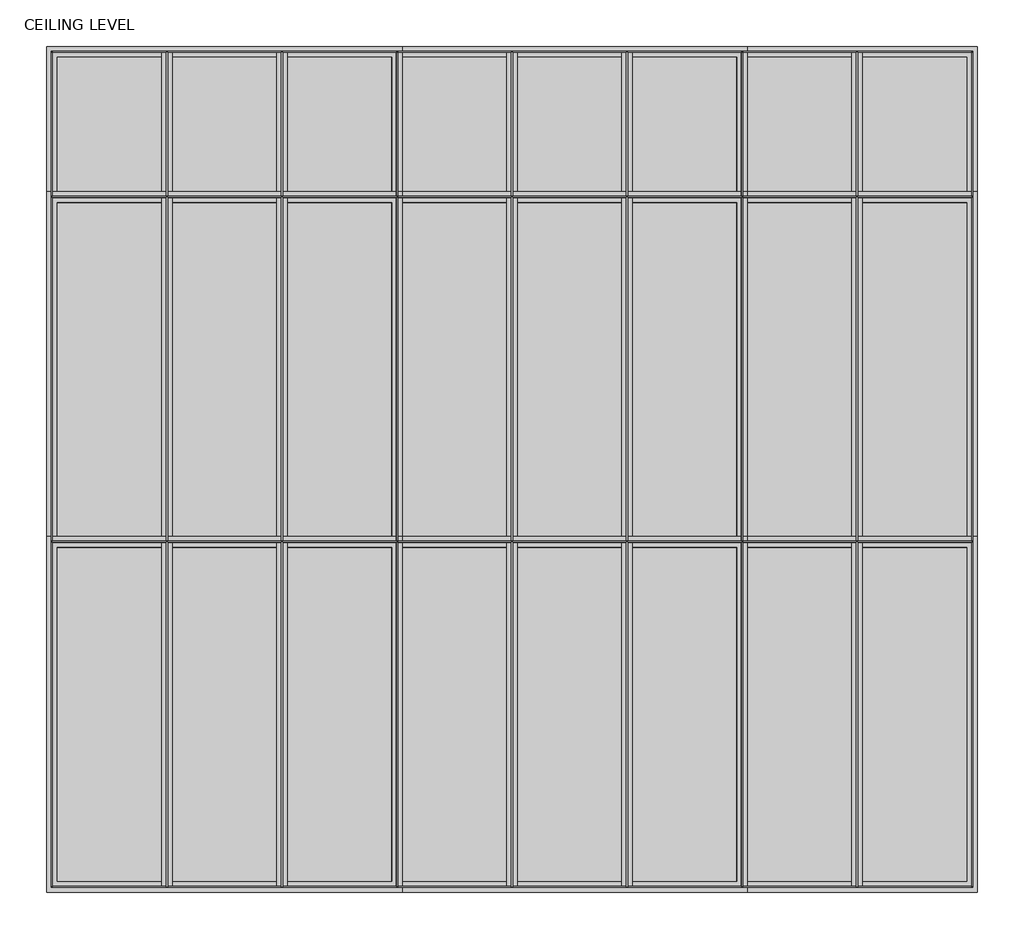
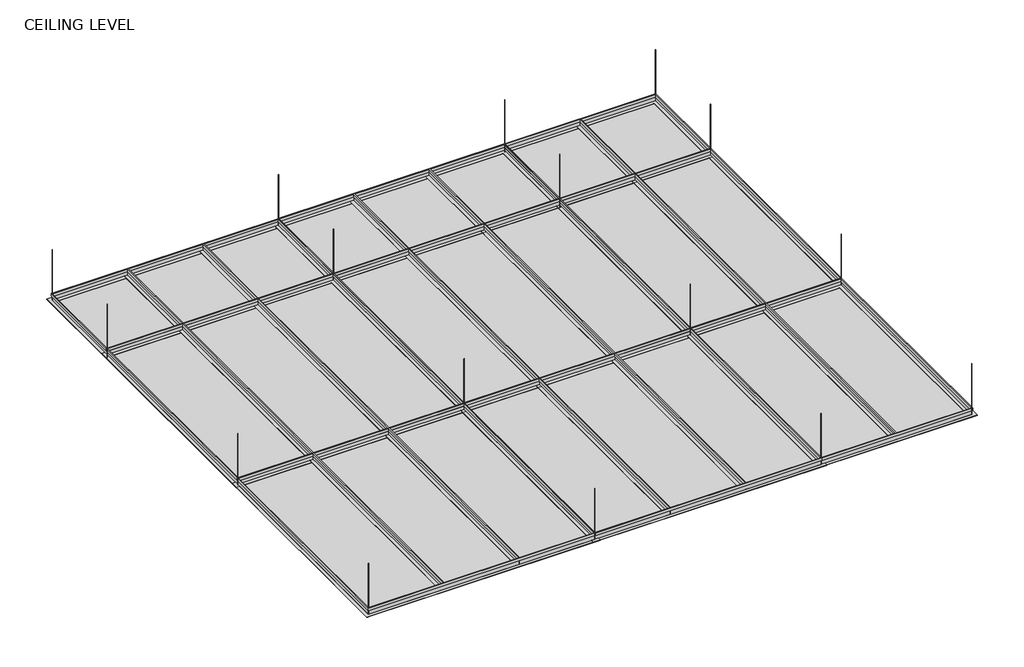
# One storey: 9 plates.
"""IFC4 building model written with IfcOpenShell, lengths in millimetres."""

import ifcopenshell
import ifcopenshell.guid

model = None  # the IFC model being written
_history = None  # IfcOwnerHistory: only IFC2X3 demands one
_inside = {}  # id of a spatial element -> (the spatial element, [elements in it])
_under = {}  # id of a project, library or spatial element -> (it, [spatial elements below it])
_declared = {}  # id of a project -> (the project, [libraries it declares])
_typed = {}  # id of a type object -> (the type object, [elements of that type])
_made_of = {}  # id of a material, layer set ... -> (it, [elements and type objects made of it])


def new_model(schema):
    """Start an empty IFC model of exactly this schema.

    Asked for "IFC4X3", IfcOpenShell would pick the latest addendum, in which some entities
    have other attributes; the version numbers below select the first issue.
    IFC2X3 requires an IfcOwnerHistory on every rooted entity: one is made here for all.
    """
    global model, _history
    if schema == "IFC4X3":
        model = ifcopenshell.file(schema_version=(4, 3, 0, 0))
    else:
        model = ifcopenshell.file(schema=schema)
    _inside.clear()
    _under.clear()
    _declared.clear()
    _typed.clear()
    _made_of.clear()
    _history = None
    if model.schema == "IFC2X3":
        org = make("IfcOrganization", Name="unknown")
        user = make(
            "IfcPersonAndOrganization",
            ThePerson=make("IfcPerson", FamilyName="unknown"),
            TheOrganization=org,
        )
        app = make(
            "IfcApplication",
            ApplicationDeveloper=org,
            Version="unknown",
            ApplicationFullName="unknown",
            ApplicationIdentifier="unknown",
        )
        _history = make(
            "IfcOwnerHistory",
            OwningUser=user,
            OwningApplication=app,
            ChangeAction="ADDED",
            CreationDate=0,
        )
    return model


def make(cls, **values):
    """One entity of the class cls with the attributes given. An attribute that is None is left unset."""
    return model.create_entity(
        cls, **{name: value for name, value in values.items() if value is not None}
    )


def rooted(cls, **values):
    """An entity with a GlobalId (a new one), such as an element, a storey or a relation."""
    return make(cls, GlobalId=ifcopenshell.guid.new(), OwnerHistory=_history, **values)


def si_unit(unit_type, name, prefix=None):
    """IfcSIUnit, for example si_unit("LENGTHUNIT", "METRE", prefix="MILLI")."""
    return make("IfcSIUnit", UnitType=unit_type, Prefix=prefix, Name=name)


def assignment(units):
    """IfcUnitAssignment: the units of a project."""
    return None if units is None else make("IfcUnitAssignment", Units=units)


def point(xyz):
    """IfcCartesianPoint."""
    return None if xyz is None else make("IfcCartesianPoint", Coordinates=xyz)


def direction(xyz):
    """IfcDirection."""
    return None if xyz is None else make("IfcDirection", DirectionRatios=xyz)


def frame(location, z_axis=None, x_axis=None):
    """IfcAxis2Placement3D, a coordinate frame: its origin and axes. An axis left out is left unset."""
    return make(
        "IfcAxis2Placement3D",
        Location=point(location),
        Axis=direction(z_axis),
        RefDirection=direction(x_axis),
    )


def frame_2d(location, x_axis=None):
    """IfcAxis2Placement2D, a coordinate frame in the plane: its origin and x axis."""
    return make(
        "IfcAxis2Placement2D", Location=point(location), RefDirection=direction(x_axis)
    )


def origin():
    """The frame at (0, 0, 0) with its axes left unset."""
    return frame((0.0, 0.0, 0.0))


def origin_with_axes():
    """The frame at (0, 0, 0) with the z axis (0, 0, 1) and the x axis (1, 0, 0) written out."""
    return frame((0.0, 0.0, 0.0), z_axis=(0.0, 0.0, 1.0), x_axis=(1.0, 0.0, 0.0))


def place(relative_to, where):
    """IfcLocalPlacement: puts the frame where relative to a parent placement (None: the world)."""
    return make(
        "IfcLocalPlacement", PlacementRelTo=relative_to, RelativePlacement=where
    )


def context(
    kind, dimensions, precision=None, world=None, true_north=None, identifier=None
):
    """IfcGeometricRepresentationContext, for example the 3D "Model" context."""
    return make(
        "IfcGeometricRepresentationContext",
        ContextIdentifier=identifier,
        ContextType=kind,
        CoordinateSpaceDimension=dimensions,
        Precision=precision,
        WorldCoordinateSystem=world,
        TrueNorth=true_north,
    )


def project(units=None, contexts=None):
    """IfcProject with its units and contexts."""
    return rooted(
        "IfcProject",
        Name="project",
        RepresentationContexts=contexts,
        UnitsInContext=assignment(units),
    )


def spatial(cls, under=None, at=None, **own):
    """A site, building, storey or space (cls), placed at a placement, below another one or the project."""
    s = rooted(cls, ObjectPlacement=at, **own)
    if under is not None:
        _under.setdefault(under.id(), (under, []))[1].append(s)
    return s


def polyline(points):
    """IfcPolyline through the points."""
    return make("IfcPolyline", Points=[point(p) for p in points])


def circle_curve(where, radius):
    """IfcCircle in the frame where."""
    return make("IfcCircle", Position=where, Radius=radius)


def trimmed(basis, trim1, trim2, sense, master):
    """IfcTrimmedCurve: the piece of a basis curve between two trims."""
    return make(
        "IfcTrimmedCurve",
        BasisCurve=basis,
        Trim1=trim1,
        Trim2=trim2,
        SenseAgreement=sense,
        MasterRepresentation=master,
    )


def segment(curve, same_sense, transition):
    """IfcCompositeCurveSegment."""
    return make(
        "IfcCompositeCurveSegment",
        Transition=transition,
        SameSense=same_sense,
        ParentCurve=curve,
    )


def composite_curve(segments, self_intersect=None):
    """IfcCompositeCurve: segments joined end to end."""
    return make("IfcCompositeCurve", Segments=segments, SelfIntersect=self_intersect)


def outline(outer, holes=None, kind="AREA"):
    """IfcArbitraryClosedProfileDef: a profile drawn as a closed curve; with holes, ...WithVoids."""
    if holes is None:
        return make("IfcArbitraryClosedProfileDef", ProfileType=kind, OuterCurve=outer)
    return make(
        "IfcArbitraryProfileDefWithVoids",
        ProfileType=kind,
        OuterCurve=outer,
        InnerCurves=holes,
    )


def extrude(swept, where, along, depth):
    """IfcExtrudedAreaSolid: the profile swept, set in the frame where, extruded along a direction by depth."""
    return make(
        "IfcExtrudedAreaSolid",
        SweptArea=swept,
        Position=where,
        ExtrudedDirection=direction(along),
        Depth=depth,
    )


def faces_of(points, faces, orient=None, outer=None):
    """IfcFace entities. A face is a list of loops; a loop is a list of indices into points, from 0.

    orient and outer hold one flag for each loop. By default every Orientation is true, the
    first loop of a face is its IfcFaceOuterBound and the others are IfcFaceBound.
    """
    made = []
    for i, loops in enumerate(faces):
        bounds = []
        for j, loop in enumerate(loops):
            is_outer = j == 0 if outer is None else outer[i][j]
            bounds.append(
                make(
                    "IfcFaceOuterBound" if is_outer else "IfcFaceBound",
                    Bound=make("IfcPolyLoop", Polygon=[points[k] for k in loop]),
                    Orientation=True if orient is None else orient[i][j],
                )
            )
        made.append(make("IfcFace", Bounds=bounds))
    return made


def faceted_brep(points, faces, orient=None, outer=None, voids=None):
    """IfcFacetedBrep: a solid bounded by flat faces; with voids (closed shells), ...WithVoids."""
    shared = [point(p) for p in points]
    hull = make("IfcClosedShell", CfsFaces=faces_of(shared, faces, orient, outer))
    if voids is None:
        return make("IfcFacetedBrep", Outer=hull)
    return make(
        "IfcFacetedBrepWithVoids",
        Outer=hull,
        Voids=[
            make(cls, CfsFaces=faces_of(shared, fs, o, b)) for cls, fs, o, b in voids
        ],
    )


def shape(context_of_items, identifier, shape_type, items):
    """IfcShapeRepresentation: the items that make up one representation, for example the "Body"."""
    return make(
        "IfcShapeRepresentation",
        ContextOfItems=context_of_items,
        RepresentationIdentifier=identifier,
        RepresentationType=shape_type,
        Items=items,
    )


def source(mapping_origin, context_of_items, identifier, shape_type, items):
    """IfcRepresentationMap: a shape defined once, which mapped items show again and again."""
    return make(
        "IfcRepresentationMap",
        MappingOrigin=mapping_origin,
        MappedRepresentation=shape(context_of_items, identifier, shape_type, items),
    )


def transform(
    local_origin,
    x_axis=None,
    y_axis=None,
    z_axis=None,
    scale=None,
    scale2=None,
    scale3=None,
    uniform=True,
):
    """IfcCartesianTransformationOperator3D, or its non-uniform kind. x_axis, y_axis, z_axis: its Axis1, 2, 3."""
    if uniform:
        return make(
            "IfcCartesianTransformationOperator3D",
            Axis1=direction(x_axis),
            Axis2=direction(y_axis),
            LocalOrigin=point(local_origin),
            Scale=scale,
            Axis3=direction(z_axis),
        )
    return make(
        "IfcCartesianTransformationOperator3DnonUniform",
        Axis1=direction(x_axis),
        Axis2=direction(y_axis),
        LocalOrigin=point(local_origin),
        Scale=scale,
        Axis3=direction(z_axis),
        Scale2=scale2,
        Scale3=scale3,
    )


def mapped(mapping_source, mapping_target):
    """IfcMappedItem: shows the shape of a source again, moved by a transform."""
    return make(
        "IfcMappedItem", MappingSource=mapping_source, MappingTarget=mapping_target
    )


def made_of(thing, what):
    """Note that an element or type object is made of a material, layer set ...; save() writes the relation."""
    if what is not None:
        _made_of.setdefault(what.id(), (what, []))[1].append(thing)
    return thing


def element(
    cls,
    number,
    at=None,
    inside=None,
    cuts=None,
    type_object=None,
    material=None,
    context=None,
    identifier="Body",
    shape_type=None,
    held_by="IfcProductDefinitionShape",
    body=None,
    shapes=None,
    **own,
):
    """One element of the class cls, such as IfcWall. Its Tag is "e" and its number.

    at: its placement. inside: the storey or other place that contains it. cuts: it is an
    opening in that element (IfcRelVoidsElement). A single representation is given by context,
    identifier, shape_type and body (its items); several are given by shapes. held_by: the class
    of the entity that holds the representations. save() writes the other relations.
    """
    e = rooted(cls, Tag="e%d" % number, ObjectPlacement=at, **own)
    if body is not None:
        shapes = [shape(context, identifier, shape_type, body)]
    if shapes is not None:
        e.Representation = make(held_by, Representations=shapes)
    if inside is not None:
        _inside.setdefault(inside.id(), (inside, []))[1].append(e)
    if cuts is not None:
        rooted(
            "IfcRelVoidsElement", RelatingBuildingElement=cuts, RelatedOpeningElement=e
        )
    if type_object is not None:
        _typed.setdefault(type_object.id(), (type_object, []))[1].append(e)
    return made_of(e, material)


def aggregate(whole, parts):
    """IfcRelAggregates: a whole, such as a stair, and the parts it consists of."""
    return rooted("IfcRelAggregates", RelatingObject=whole, RelatedObjects=parts)


def save(model, path):
    """Write the relations noted so far, then the file.

    IfcRelAggregates (storeys below a building ...), IfcRelContainedInSpatialStructure (elements
    in a storey), IfcRelDefinesByType, IfcRelAssociatesMaterial and IfcRelDeclares: one each for
    every whole, place, type object, material and project.
    """
    for whole, parts in _under.values():
        aggregate(whole, parts)
    for where, things in _inside.values():
        rooted(
            "IfcRelContainedInSpatialStructure",
            RelatedElements=things,
            RelatingStructure=where,
        )
    for kind, things in _typed.values():
        rooted("IfcRelDefinesByType", RelatedObjects=things, RelatingType=kind)
    for what, things in _made_of.values():
        rooted("IfcRelAssociatesMaterial", RelatedObjects=things, RelatingMaterial=what)
    for by, libraries in _declared.values():
        rooted("IfcRelDeclares", RelatingContext=by, RelatedDefinitions=libraries)
    model.write(path)


def plate_5478498b(model_context):
    return source(origin(), model_context, "Body", "SolidModel", [
        extrude(outline(composite_curve([segment(trimmed(circle_curve(frame_2d((1200.0, 600.0000002)), 0.5), [point((1200.0, 600.5000002))], [point((1200.0, 599.5000002))], False, "CARTESIAN"), True, "CONTINUOUS"), segment(trimmed(circle_curve(frame_2d((1200.0, 600.0000002)), 0.5), [point((1200.0, 599.5000002))], [point((1200.0, 600.5000002))], False, "CARTESIAN"), True, "CONTINUOUS")], self_intersect=False)), frame((0.0, -300.0, 0.0), z_axis=(0.0, 1.0, 0.0), x_axis=(0.0, 0.0, 1.0)), (0.0, 0.0, 1.0), 300.0),
        extrude(outline(composite_curve([segment(trimmed(circle_curve(frame_2d((1200.0, -600.0000002)), 0.5), [point((1200.0, -599.5000002))], [point((1200.0, -600.5000002))], False, "CARTESIAN"), True, "CONTINUOUS"), segment(trimmed(circle_curve(frame_2d((1200.0, -600.0000002)), 0.5), [point((1200.0, -600.5000002))], [point((1200.0, -599.5000002))], False, "CARTESIAN"), True, "CONTINUOUS")], self_intersect=False)), frame((0.0, -300.0, 0.0), z_axis=(0.0, 1.0, 0.0), x_axis=(0.0, 0.0, 1.0)), (0.0, 0.0, 1.0), 300.0),
        extrude(outline(composite_curve([segment(trimmed(circle_curve(frame_2d((0.0, 600.0000002)), 0.5), [point((0.0, 600.5000002))], [point((0.0, 599.5000002))], False, "CARTESIAN"), True, "CONTINUOUS"), segment(trimmed(circle_curve(frame_2d((0.0, 600.0000002)), 0.5), [point((0.0, 599.5000002))], [point((0.0, 600.5000002))], False, "CARTESIAN"), True, "CONTINUOUS")], self_intersect=False)), frame((0.0, -300.0, 0.0), z_axis=(0.0, 1.0, 0.0), x_axis=(0.0, 0.0, 1.0)), (0.0, 0.0, 1.0), 300.0),
        extrude(outline(composite_curve([segment(trimmed(circle_curve(frame_2d((0.0, -600.0000002)), 0.5), [point((0.0, -599.5000002))], [point((0.0, -600.5000002))], False, "CARTESIAN"), True, "CONTINUOUS"), segment(trimmed(circle_curve(frame_2d((0.0, -600.0000002)), 0.5), [point((0.0, -600.5000002))], [point((0.0, -599.5000002))], False, "CARTESIAN"), True, "CONTINUOUS")], self_intersect=False)), frame((0.0, -300.0, 0.0), z_axis=(0.0, 1.0, 0.0), x_axis=(0.0, 0.0, 1.0)), (0.0, 0.0, 1.0), 300.0),
        extrude(outline(polyline([(219.0000001, -15.0), (219.0000001, -16.0), (200.5000001, -16.0), (200.5000001, -37.0), (202.5000001, -37.0), (202.5000001, -51.0), (197.5000001, -51.0), (197.5000001, -37.0), (199.5000001, -37.0), (199.5000001, -16.0), (181.0000001, -16.0), (181.0000001, -15.0), (219.0000001, -15.0)])), origin_with_axes(), (0.0, 0.0, 1.0), 1200.0),
        extrude(outline(polyline([(-181.0000001, -15.0), (-181.0000001, -16.0), (-199.5000001, -16.0), (-199.5000001, -37.0), (-197.5000001, -37.0), (-197.5000001, -51.0), (-202.5000001, -51.0), (-202.5000001, -37.0), (-200.5000001, -37.0), (-200.5000001, -16.0), (-219.0000001, -16.0), (-219.0000001, -15.0), (-181.0000001, -15.0)])), origin_with_axes(), (0.0, 0.0, 1.0), 1200.0),
        faceted_brep([(581.0000002, -16.0, 1181.0), (581.0000002, -15.0, 1181.0), (581.0000002, -15.0, 19.0), (581.0000002, -16.0, 19.0), (599.5000002, -37.0, 1199.5), (599.5000002, -16.0, 1199.5), (599.5000002, -16.0, 0.5), (599.5000002, -37.0, 0.5), (597.5000002, -51.0, 1197.5), (597.5000002, -37.0, 1197.5), (597.5000002, -37.0, 2.5), (597.5000002, -51.0, 2.5), (602.5000002, -37.0, 1202.5), (602.5000002, -51.0, 1202.5), (602.5000002, -51.0, -2.5), (602.5000002, -37.0, -2.5), (600.5000002, -16.0, 1200.5), (600.5000002, -37.0, 1200.5), (600.5000002, -37.0, -0.5), (600.5000002, -16.0, -0.5), (619.0000002, -15.0, 1219.0), (619.0000002, -16.0, 1219.0), (619.0000002, -16.0, -19.0), (619.0000002, -15.0, -19.0), (-581.0000002, -15.0, 19.0), (-581.0000002, -16.0, 19.0), (-599.5000002, -16.0, 0.5), (-599.5000002, -37.0, 0.5), (-597.5000002, -37.0, 2.5), (-597.5000002, -51.0, 2.5), (-602.5000002, -51.0, -2.5), (-602.5000002, -37.0, -2.5), (-600.5000002, -37.0, -0.5), (-600.5000002, -16.0, -0.5), (-619.0000002, -16.0, -19.0), (-619.0000002, -15.0, -19.0), (-581.0000002, -15.0, 1181.0), (-581.0000002, -16.0, 1181.0), (-599.5000002, -16.0, 1199.5), (-599.5000002, -37.0, 1199.5), (-597.5000002, -37.0, 1197.5), (-597.5000002, -51.0, 1197.5), (-602.5000002, -51.0, 1202.5), (-602.5000002, -37.0, 1202.5), (-600.5000002, -37.0, 1200.5), (-600.5000002, -16.0, 1200.5), (-619.0000002, -16.0, 1219.0), (-619.0000002, -15.0, 1219.0)], [[[0, 1, 2, 3]], [[4, 5, 6, 7]], [[8, 9, 10, 11]], [[12, 13, 14, 15]], [[16, 17, 18, 19]], [[20, 21, 22, 23]], [[3, 2, 24, 25]], [[7, 6, 26, 27]], [[11, 10, 28, 29]], [[15, 14, 30, 31]], [[19, 18, 32, 33]], [[23, 22, 34, 35]], [[25, 24, 36, 37]], [[27, 26, 38, 39]], [[29, 28, 40, 41]], [[31, 30, 42, 43]], [[33, 32, 44, 45]], [[35, 34, 46, 47]], [[23, 35, 47, 20], [1, 36, 24, 2]], [[37, 36, 1, 0]], [[5, 38, 26, 6], [3, 25, 37, 0]], [[39, 38, 5, 4]], [[7, 27, 39, 4], [9, 40, 28, 10]], [[41, 40, 9, 8]], [[13, 42, 30, 14], [11, 29, 41, 8]], [[43, 42, 13, 12]], [[15, 31, 43, 12], [17, 44, 32, 18]], [[45, 44, 17, 16]], [[21, 46, 34, 22], [19, 33, 45, 16]], [[47, 46, 21, 20]]]),
        extrude(outline(polyline([(600.0000002, -15.0), (-600.0000002, -15.0), (-600.0000002, 0.0), (600.0000002, 0.0), (600.0000002, -15.0)])), origin_with_axes(), (0.0, 0.0, 1.0), 1200.0),
    ])


def plate_05c5f138(model_context):
    return source(origin(), model_context, "Body", "SolidModel", [
        extrude(outline(composite_curve([segment(trimmed(circle_curve(frame_2d((505.0, 600.0000002)), 0.5), [point((505.0, 600.5000002))], [point((505.0, 599.5000002))], False, "CARTESIAN"), True, "CONTINUOUS"), segment(trimmed(circle_curve(frame_2d((505.0, 600.0000002)), 0.5), [point((505.0, 599.5000002))], [point((505.0, 600.5000002))], False, "CARTESIAN"), True, "CONTINUOUS")], self_intersect=False)), frame((0.0, -300.0, 0.0), z_axis=(0.0, 1.0, 0.0), x_axis=(0.0, 0.0, 1.0)), (0.0, 0.0, 1.0), 300.0),
        extrude(outline(composite_curve([segment(trimmed(circle_curve(frame_2d((505.0, -600.0000002)), 0.5), [point((505.0, -599.5000002))], [point((505.0, -600.5000002))], False, "CARTESIAN"), True, "CONTINUOUS"), segment(trimmed(circle_curve(frame_2d((505.0, -600.0000002)), 0.5), [point((505.0, -600.5000002))], [point((505.0, -599.5000002))], False, "CARTESIAN"), True, "CONTINUOUS")], self_intersect=False)), frame((0.0, -300.0, 0.0), z_axis=(0.0, 1.0, 0.0), x_axis=(0.0, 0.0, 1.0)), (0.0, 0.0, 1.0), 300.0),
        extrude(outline(composite_curve([segment(trimmed(circle_curve(frame_2d((0.0, 600.0000002)), 0.5), [point((0.0, 600.5000002))], [point((0.0, 599.5000002))], False, "CARTESIAN"), True, "CONTINUOUS"), segment(trimmed(circle_curve(frame_2d((0.0, 600.0000002)), 0.5), [point((0.0, 599.5000002))], [point((0.0, 600.5000002))], False, "CARTESIAN"), True, "CONTINUOUS")], self_intersect=False)), frame((0.0, -300.0, 0.0), z_axis=(0.0, 1.0, 0.0), x_axis=(0.0, 0.0, 1.0)), (0.0, 0.0, 1.0), 300.0),
        extrude(outline(composite_curve([segment(trimmed(circle_curve(frame_2d((0.0, -600.0000002)), 0.5), [point((0.0, -599.5000002))], [point((0.0, -600.5000002))], False, "CARTESIAN"), True, "CONTINUOUS"), segment(trimmed(circle_curve(frame_2d((0.0, -600.0000002)), 0.5), [point((0.0, -600.5000002))], [point((0.0, -599.5000002))], False, "CARTESIAN"), True, "CONTINUOUS")], self_intersect=False)), frame((0.0, -300.0, 0.0), z_axis=(0.0, 1.0, 0.0), x_axis=(0.0, 0.0, 1.0)), (0.0, 0.0, 1.0), 300.0),
        extrude(outline(polyline([(219.0000001, -15.0), (219.0000001, -16.0), (200.5000001, -16.0), (200.5000001, -37.0), (202.5000001, -37.0), (202.5000001, -51.0), (197.5000001, -51.0), (197.5000001, -37.0), (199.5000001, -37.0), (199.5000001, -16.0), (181.0000001, -16.0), (181.0000001, -15.0), (219.0000001, -15.0)])), origin_with_axes(), (0.0, 0.0, 1.0), 505.0),
        extrude(outline(polyline([(-181.0000001, -15.0), (-181.0000001, -16.0), (-199.5000001, -16.0), (-199.5000001, -37.0), (-197.5000001, -37.0), (-197.5000001, -51.0), (-202.5000001, -51.0), (-202.5000001, -37.0), (-200.5000001, -37.0), (-200.5000001, -16.0), (-219.0000001, -16.0), (-219.0000001, -15.0), (-181.0000001, -15.0)])), origin_with_axes(), (0.0, 0.0, 1.0), 505.0),
        faceted_brep([(581.0000002, -16.0, 486.0), (581.0000002, -15.0, 486.0), (581.0000002, -15.0, 19.0), (581.0000002, -16.0, 19.0), (599.5000002, -37.0, 504.5), (599.5000002, -16.0, 504.5), (599.5000002, -16.0, 0.5), (599.5000002, -37.0, 0.5), (597.5000002, -51.0, 502.5), (597.5000002, -37.0, 502.5), (597.5000002, -37.0, 2.5), (597.5000002, -51.0, 2.5), (602.5000002, -37.0, 507.5), (602.5000002, -51.0, 507.5), (602.5000002, -51.0, -2.5), (602.5000002, -37.0, -2.5), (600.5000002, -16.0, 505.5), (600.5000002, -37.0, 505.5), (600.5000002, -37.0, -0.5), (600.5000002, -16.0, -0.5), (619.0000002, -15.0, 524.0), (619.0000002, -16.0, 524.0), (619.0000002, -16.0, -19.0), (619.0000002, -15.0, -19.0), (-581.0000002, -15.0, 19.0), (-581.0000002, -16.0, 19.0), (-599.5000002, -16.0, 0.5), (-599.5000002, -37.0, 0.5), (-597.5000002, -37.0, 2.5), (-597.5000002, -51.0, 2.5), (-602.5000002, -51.0, -2.5), (-602.5000002, -37.0, -2.5), (-600.5000002, -37.0, -0.5), (-600.5000002, -16.0, -0.5), (-619.0000002, -16.0, -19.0), (-619.0000002, -15.0, -19.0), (-581.0000002, -15.0, 486.0), (-581.0000002, -16.0, 486.0), (-599.5000002, -16.0, 504.5), (-599.5000002, -37.0, 504.5), (-597.5000002, -37.0, 502.5), (-597.5000002, -51.0, 502.5), (-602.5000002, -51.0, 507.5), (-602.5000002, -37.0, 507.5), (-600.5000002, -37.0, 505.5), (-600.5000002, -16.0, 505.5), (-619.0000002, -16.0, 524.0), (-619.0000002, -15.0, 524.0)], [[[0, 1, 2, 3]], [[4, 5, 6, 7]], [[8, 9, 10, 11]], [[12, 13, 14, 15]], [[16, 17, 18, 19]], [[20, 21, 22, 23]], [[3, 2, 24, 25]], [[7, 6, 26, 27]], [[11, 10, 28, 29]], [[15, 14, 30, 31]], [[19, 18, 32, 33]], [[23, 22, 34, 35]], [[25, 24, 36, 37]], [[27, 26, 38, 39]], [[29, 28, 40, 41]], [[31, 30, 42, 43]], [[33, 32, 44, 45]], [[35, 34, 46, 47]], [[23, 35, 47, 20], [1, 36, 24, 2]], [[37, 36, 1, 0]], [[5, 38, 26, 6], [3, 25, 37, 0]], [[39, 38, 5, 4]], [[7, 27, 39, 4], [9, 40, 28, 10]], [[41, 40, 9, 8]], [[13, 42, 30, 14], [11, 29, 41, 8]], [[43, 42, 13, 12]], [[15, 31, 43, 12], [17, 44, 32, 18]], [[45, 44, 17, 16]], [[21, 46, 34, 22], [19, 33, 45, 16]], [[47, 46, 21, 20]]]),
        extrude(outline(polyline([(600.0000002, -15.0), (-600.0000002, -15.0), (-600.0000002, 0.0), (600.0000002, 0.0), (600.0000002, -15.0)])), origin_with_axes(), (0.0, 0.0, 1.0), 505.0),
    ])


def flush_ceiling_panel_with_tee_and_cable_ties_ceiling_panel_486cffb7(model_context):
    return source(origin(), model_context, "Body", "SolidModel", [
        extrude(outline(composite_curve([segment(trimmed(circle_curve(frame_2d((1200.0, 399.9999998)), 0.5), [point((1200.0, 400.4999998))], [point((1200.0, 399.4999998))], False, "CARTESIAN"), True, "CONTINUOUS"), segment(trimmed(circle_curve(frame_2d((1200.0, 399.9999998)), 0.5), [point((1200.0, 399.4999998))], [point((1200.0, 400.4999998))], False, "CARTESIAN"), True, "CONTINUOUS")], self_intersect=False)), frame((0.0, -300.0, 0.0), z_axis=(0.0, 1.0, 0.0), x_axis=(0.0, 0.0, 1.0)), (0.0, 0.0, 1.0), 300.0),
        extrude(outline(composite_curve([segment(trimmed(circle_curve(frame_2d((1200.0, -399.9999998)), 0.5), [point((1200.0, -399.4999998))], [point((1200.0, -400.4999998))], False, "CARTESIAN"), True, "CONTINUOUS"), segment(trimmed(circle_curve(frame_2d((1200.0, -399.9999998)), 0.5), [point((1200.0, -400.4999998))], [point((1200.0, -399.4999998))], False, "CARTESIAN"), True, "CONTINUOUS")], self_intersect=False)), frame((0.0, -300.0, 0.0), z_axis=(0.0, 1.0, 0.0), x_axis=(0.0, 0.0, 1.0)), (0.0, 0.0, 1.0), 300.0),
        extrude(outline(composite_curve([segment(trimmed(circle_curve(frame_2d((0.0, 399.9999998)), 0.5), [point((0.0, 400.4999998))], [point((0.0, 399.4999998))], False, "CARTESIAN"), True, "CONTINUOUS"), segment(trimmed(circle_curve(frame_2d((0.0, 399.9999998)), 0.5), [point((0.0, 399.4999998))], [point((0.0, 400.4999998))], False, "CARTESIAN"), True, "CONTINUOUS")], self_intersect=False)), frame((0.0, -300.0, 0.0), z_axis=(0.0, 1.0, 0.0), x_axis=(0.0, 0.0, 1.0)), (0.0, 0.0, 1.0), 300.0),
        extrude(outline(composite_curve([segment(trimmed(circle_curve(frame_2d((0.0, -399.9999998)), 0.5), [point((0.0, -399.4999998))], [point((0.0, -400.4999998))], False, "CARTESIAN"), True, "CONTINUOUS"), segment(trimmed(circle_curve(frame_2d((0.0, -399.9999998)), 0.5), [point((0.0, -400.4999998))], [point((0.0, -399.4999998))], False, "CARTESIAN"), True, "CONTINUOUS")], self_intersect=False)), frame((0.0, -300.0, 0.0), z_axis=(0.0, 1.0, 0.0), x_axis=(0.0, 0.0, 1.0)), (0.0, 0.0, 1.0), 300.0),
        extrude(outline(polyline([(19.0, -15.0), (19.0, -16.0), (0.5, -16.0), (0.5, -37.0), (2.5, -37.0), (2.5, -51.0), (-2.5, -51.0), (-2.5, -37.0), (-0.5, -37.0), (-0.5, -16.0), (-19.0, -16.0), (-19.0, -15.0), (19.0, -15.0)])), origin_with_axes(), (0.0, 0.0, 1.0), 1200.0),
        faceted_brep([(380.9999998, -16.0, 1181.0), (380.9999998, -15.0, 1181.0), (380.9999998, -15.0, 19.0), (380.9999998, -16.0, 19.0), (399.4999998, -37.0, 1199.5), (399.4999998, -16.0, 1199.5), (399.4999998, -16.0, 0.5), (399.4999998, -37.0, 0.5), (397.4999998, -51.0, 1197.5), (397.4999998, -37.0, 1197.5), (397.4999998, -37.0, 2.5), (397.4999998, -51.0, 2.5), (402.4999998, -37.0, 1202.5), (402.4999998, -51.0, 1202.5), (402.4999998, -51.0, -2.5), (402.4999998, -37.0, -2.5), (400.4999998, -16.0, 1200.5), (400.4999998, -37.0, 1200.5), (400.4999998, -37.0, -0.5), (400.4999998, -16.0, -0.5), (418.9999998, -15.0, 1219.0), (418.9999998, -16.0, 1219.0), (418.9999998, -16.0, -19.0), (418.9999998, -15.0, -19.0), (-380.9999998, -15.0, 19.0), (-380.9999998, -16.0, 19.0), (-399.4999998, -16.0, 0.5), (-399.4999998, -37.0, 0.5), (-397.4999998, -37.0, 2.5), (-397.4999998, -51.0, 2.5), (-402.4999998, -51.0, -2.5), (-402.4999998, -37.0, -2.5), (-400.4999998, -37.0, -0.5), (-400.4999998, -16.0, -0.5), (-418.9999998, -16.0, -19.0), (-418.9999998, -15.0, -19.0), (-380.9999998, -15.0, 1181.0), (-380.9999998, -16.0, 1181.0), (-399.4999998, -16.0, 1199.5), (-399.4999998, -37.0, 1199.5), (-397.4999998, -37.0, 1197.5), (-397.4999998, -51.0, 1197.5), (-402.4999998, -51.0, 1202.5), (-402.4999998, -37.0, 1202.5), (-400.4999998, -37.0, 1200.5), (-400.4999998, -16.0, 1200.5), (-418.9999998, -16.0, 1219.0), (-418.9999998, -15.0, 1219.0)], [[[0, 1, 2, 3]], [[4, 5, 6, 7]], [[8, 9, 10, 11]], [[12, 13, 14, 15]], [[16, 17, 18, 19]], [[20, 21, 22, 23]], [[3, 2, 24, 25]], [[7, 6, 26, 27]], [[11, 10, 28, 29]], [[15, 14, 30, 31]], [[19, 18, 32, 33]], [[23, 22, 34, 35]], [[25, 24, 36, 37]], [[27, 26, 38, 39]], [[29, 28, 40, 41]], [[31, 30, 42, 43]], [[33, 32, 44, 45]], [[35, 34, 46, 47]], [[23, 35, 47, 20], [1, 36, 24, 2]], [[37, 36, 1, 0]], [[5, 38, 26, 6], [3, 25, 37, 0]], [[39, 38, 5, 4]], [[7, 27, 39, 4], [9, 40, 28, 10]], [[41, 40, 9, 8]], [[13, 42, 30, 14], [11, 29, 41, 8]], [[43, 42, 13, 12]], [[15, 31, 43, 12], [17, 44, 32, 18]], [[45, 44, 17, 16]], [[21, 46, 34, 22], [19, 33, 45, 16]], [[47, 46, 21, 20]]]),
        extrude(outline(polyline([(399.9999998, -15.0), (-399.9999998, -15.0), (-399.9999998, 0.0), (399.9999998, 0.0), (399.9999998, -15.0)])), origin_with_axes(), (0.0, 0.0, 1.0), 1200.0),
    ])


def flush_ceiling_panel_with_tee_and_cable_ties_ceiling_panel_26e405d2(model_context):
    return source(origin(), model_context, "Body", "SolidModel", [
        extrude(outline(composite_curve([segment(trimmed(circle_curve(frame_2d((505.0, 399.9999998)), 0.5), [point((505.0, 400.4999998))], [point((505.0, 399.4999998))], False, "CARTESIAN"), True, "CONTINUOUS"), segment(trimmed(circle_curve(frame_2d((505.0, 399.9999998)), 0.5), [point((505.0, 399.4999998))], [point((505.0, 400.4999998))], False, "CARTESIAN"), True, "CONTINUOUS")], self_intersect=False)), frame((0.0, -300.0, 0.0), z_axis=(0.0, 1.0, 0.0), x_axis=(0.0, 0.0, 1.0)), (0.0, 0.0, 1.0), 300.0),
        extrude(outline(composite_curve([segment(trimmed(circle_curve(frame_2d((505.0, -399.9999998)), 0.5), [point((505.0, -399.4999998))], [point((505.0, -400.4999998))], False, "CARTESIAN"), True, "CONTINUOUS"), segment(trimmed(circle_curve(frame_2d((505.0, -399.9999998)), 0.5), [point((505.0, -400.4999998))], [point((505.0, -399.4999998))], False, "CARTESIAN"), True, "CONTINUOUS")], self_intersect=False)), frame((0.0, -300.0, 0.0), z_axis=(0.0, 1.0, 0.0), x_axis=(0.0, 0.0, 1.0)), (0.0, 0.0, 1.0), 300.0),
        extrude(outline(composite_curve([segment(trimmed(circle_curve(frame_2d((0.0, 399.9999998)), 0.5), [point((0.0, 400.4999998))], [point((0.0, 399.4999998))], False, "CARTESIAN"), True, "CONTINUOUS"), segment(trimmed(circle_curve(frame_2d((0.0, 399.9999998)), 0.5), [point((0.0, 399.4999998))], [point((0.0, 400.4999998))], False, "CARTESIAN"), True, "CONTINUOUS")], self_intersect=False)), frame((0.0, -300.0, 0.0), z_axis=(0.0, 1.0, 0.0), x_axis=(0.0, 0.0, 1.0)), (0.0, 0.0, 1.0), 300.0),
        extrude(outline(composite_curve([segment(trimmed(circle_curve(frame_2d((0.0, -399.9999998)), 0.5), [point((0.0, -399.4999998))], [point((0.0, -400.4999998))], False, "CARTESIAN"), True, "CONTINUOUS"), segment(trimmed(circle_curve(frame_2d((0.0, -399.9999998)), 0.5), [point((0.0, -400.4999998))], [point((0.0, -399.4999998))], False, "CARTESIAN"), True, "CONTINUOUS")], self_intersect=False)), frame((0.0, -300.0, 0.0), z_axis=(0.0, 1.0, 0.0), x_axis=(0.0, 0.0, 1.0)), (0.0, 0.0, 1.0), 300.0),
        extrude(outline(polyline([(19.0, -15.0), (19.0, -16.0), (0.5, -16.0), (0.5, -37.0), (2.5, -37.0), (2.5, -51.0), (-2.5, -51.0), (-2.5, -37.0), (-0.5, -37.0), (-0.5, -16.0), (-19.0, -16.0), (-19.0, -15.0), (19.0, -15.0)])), origin_with_axes(), (0.0, 0.0, 1.0), 505.0),
        faceted_brep([(380.9999998, -16.0, 486.0), (380.9999998, -15.0, 486.0), (380.9999998, -15.0, 19.0), (380.9999998, -16.0, 19.0), (399.4999998, -37.0, 504.5), (399.4999998, -16.0, 504.5), (399.4999998, -16.0, 0.5), (399.4999998, -37.0, 0.5), (397.4999998, -51.0, 502.5), (397.4999998, -37.0, 502.5), (397.4999998, -37.0, 2.5), (397.4999998, -51.0, 2.5), (402.4999998, -37.0, 507.5), (402.4999998, -51.0, 507.5), (402.4999998, -51.0, -2.5), (402.4999998, -37.0, -2.5), (400.4999998, -16.0, 505.5), (400.4999998, -37.0, 505.5), (400.4999998, -37.0, -0.5), (400.4999998, -16.0, -0.5), (418.9999998, -15.0, 524.0), (418.9999998, -16.0, 524.0), (418.9999998, -16.0, -19.0), (418.9999998, -15.0, -19.0), (-380.9999998, -15.0, 19.0), (-380.9999998, -16.0, 19.0), (-399.4999998, -16.0, 0.5), (-399.4999998, -37.0, 0.5), (-397.4999998, -37.0, 2.5), (-397.4999998, -51.0, 2.5), (-402.4999998, -51.0, -2.5), (-402.4999998, -37.0, -2.5), (-400.4999998, -37.0, -0.5), (-400.4999998, -16.0, -0.5), (-418.9999998, -16.0, -19.0), (-418.9999998, -15.0, -19.0), (-380.9999998, -15.0, 486.0), (-380.9999998, -16.0, 486.0), (-399.4999998, -16.0, 504.5), (-399.4999998, -37.0, 504.5), (-397.4999998, -37.0, 502.5), (-397.4999998, -51.0, 502.5), (-402.4999998, -51.0, 507.5), (-402.4999998, -37.0, 507.5), (-400.4999998, -37.0, 505.5), (-400.4999998, -16.0, 505.5), (-418.9999998, -16.0, 524.0), (-418.9999998, -15.0, 524.0)], [[[0, 1, 2, 3]], [[4, 5, 6, 7]], [[8, 9, 10, 11]], [[12, 13, 14, 15]], [[16, 17, 18, 19]], [[20, 21, 22, 23]], [[3, 2, 24, 25]], [[7, 6, 26, 27]], [[11, 10, 28, 29]], [[15, 14, 30, 31]], [[19, 18, 32, 33]], [[23, 22, 34, 35]], [[25, 24, 36, 37]], [[27, 26, 38, 39]], [[29, 28, 40, 41]], [[31, 30, 42, 43]], [[33, 32, 44, 45]], [[35, 34, 46, 47]], [[23, 35, 47, 20], [1, 36, 24, 2]], [[37, 36, 1, 0]], [[5, 38, 26, 6], [3, 25, 37, 0]], [[39, 38, 5, 4]], [[7, 27, 39, 4], [9, 40, 28, 10]], [[41, 40, 9, 8]], [[13, 42, 30, 14], [11, 29, 41, 8]], [[43, 42, 13, 12]], [[15, 31, 43, 12], [17, 44, 32, 18]], [[45, 44, 17, 16]], [[21, 46, 34, 22], [19, 33, 45, 16]], [[47, 46, 21, 20]]]),
        extrude(outline(polyline([(399.9999998, -15.0), (-399.9999998, -15.0), (-399.9999998, 0.0), (399.9999998, 0.0), (399.9999998, -15.0)])), origin_with_axes(), (0.0, 0.0, 1.0), 505.0),
    ])


model = new_model("IFC4")

# Units and contexts
model_context = context("Model", 3, world=origin())
ifc_project = project(units=[si_unit("LENGTHUNIT", "METRE", prefix="MILLI")], contexts=[model_context])

# Site, building, storey
site = spatial("IfcSite", under=ifc_project)
building = spatial("IfcBuilding", under=site)
storey = spatial("IfcBuildingStorey", under=building, Name="CEILING LEVEL", Elevation=3000.0)

# Plates
placement = place(None, origin())
plate_shape = plate_5478498b(model_context)
element("IfcPlate", 1, ObjectType="Flush Ceiling Panel with Tee and Cable Ties (3 Segments) : Ceiling Panel (Vinyl) with Tee and Cable Ties Edge", at=placement, inside=storey, context=model_context, shape_type="MappedRepresentation", body=[
    mapped(plate_shape, transform((-460.7221627, -41755.6917524, 3000.0), x_axis=(1.0, 0.0, 0.0), y_axis=(0.0, 0.0, -1.0), z_axis=(0.0, 1.0, 0.0))),
])
element("IfcPlate", 2, ObjectType="Flush Ceiling Panel with Tee and Cable Ties (3 Segments) : Ceiling Panel (Vinyl) with Tee and Cable Ties Edge", at=placement, inside=storey, context=model_context, shape_type="MappedRepresentation", body=[
    mapped(plate_shape, transform((739.2778375, -41755.6917524, 3000.0), x_axis=(1.0, 0.0, 0.0), y_axis=(0.0, 0.0, -1.0), z_axis=(0.0, 1.0, 0.0))),
])
element("IfcPlate", 3, ObjectType="Flush Ceiling Panel with Tee and Cable Ties (3 Segments) : Ceiling Panel (Vinyl) with Tee and Cable Ties Edge", at=placement, inside=storey, context=model_context, shape_type="MappedRepresentation", body=[
    mapped(plate_shape, transform((-460.7221627, -40555.6917524, 3000.0), x_axis=(1.0, 0.0, 0.0), y_axis=(0.0, 0.0, -1.0), z_axis=(0.0, 1.0, 0.0))),
])
element("IfcPlate", 4, ObjectType="Flush Ceiling Panel with Tee and Cable Ties (3 Segments) : Ceiling Panel (Vinyl) with Tee and Cable Ties Edge", at=placement, inside=storey, context=model_context, shape_type="MappedRepresentation", body=[
    mapped(plate_shape, transform((739.2778375, -40555.6917524, 3000.0), x_axis=(1.0, 0.0, 0.0), y_axis=(0.0, 0.0, -1.0), z_axis=(0.0, 1.0, 0.0))),
])
plate_2_shape = plate_05c5f138(model_context)
element("IfcPlate", 5, ObjectType="Flush Ceiling Panel with Tee and Cable Ties (3 Segments) : Ceiling Panel (Vinyl) with Tee and Cable Ties Edge", at=placement, inside=storey, context=model_context, shape_type="MappedRepresentation", body=[
    mapped(plate_2_shape, transform((-460.7221627, -39355.6917524, 3000.0), x_axis=(1.0, 0.0, 0.0), y_axis=(0.0, 0.0, -1.0), z_axis=(0.0, 1.0, 0.0))),
])
element("IfcPlate", 6, ObjectType="Flush Ceiling Panel with Tee and Cable Ties (3 Segments) : Ceiling Panel (Vinyl) with Tee and Cable Ties Edge", at=placement, inside=storey, context=model_context, shape_type="MappedRepresentation", body=[
    mapped(plate_2_shape, transform((739.2778375, -39355.6917524, 3000.0), x_axis=(1.0, 0.0, 0.0), y_axis=(0.0, 0.0, -1.0), z_axis=(0.0, 1.0, 0.0))),
])
flush_ceiling_panel_with_tee_and_cable_ties_ceiling_panel_shape = flush_ceiling_panel_with_tee_and_cable_ties_ceiling_panel_486cffb7(model_context)
element("IfcPlate", 7, ObjectType="Flush Ceiling Panel with Tee and Cable Ties : Ceiling Panel with Tee and Cable Ties Edge", at=placement, inside=storey, context=model_context, shape_type="MappedRepresentation", body=[
    mapped(flush_ceiling_panel_with_tee_and_cable_ties_ceiling_panel_shape, transform((1739.2778373, -41755.6917524, 3000.0), x_axis=(1.0, 0.0, 0.0), y_axis=(0.0, 0.0, -1.0), z_axis=(0.0, 1.0, 0.0))),
])
element("IfcPlate", 8, ObjectType="Flush Ceiling Panel with Tee and Cable Ties : Ceiling Panel with Tee and Cable Ties Edge", at=placement, inside=storey, context=model_context, shape_type="MappedRepresentation", body=[
    mapped(flush_ceiling_panel_with_tee_and_cable_ties_ceiling_panel_shape, transform((1739.2778373, -40555.6917524, 3000.0), x_axis=(1.0, 0.0, 0.0), y_axis=(0.0, 0.0, -1.0), z_axis=(0.0, 1.0, 0.0))),
])
flush_ceiling_panel_with_tee_and_cable_ties_ceiling_panel_2_shape = flush_ceiling_panel_with_tee_and_cable_ties_ceiling_panel_26e405d2(model_context)
element("IfcPlate", 9, ObjectType="Flush Ceiling Panel with Tee and Cable Ties : Ceiling Panel with Tee and Cable Ties Edge", at=placement, inside=storey, context=model_context, shape_type="MappedRepresentation", body=[
    mapped(flush_ceiling_panel_with_tee_and_cable_ties_ceiling_panel_2_shape, transform((1739.2778373, -39355.6917524, 3000.0), x_axis=(1.0, 0.0, 0.0), y_axis=(0.0, 0.0, -1.0), z_axis=(0.0, 1.0, 0.0))),
])

save(model, "model.ifc")
